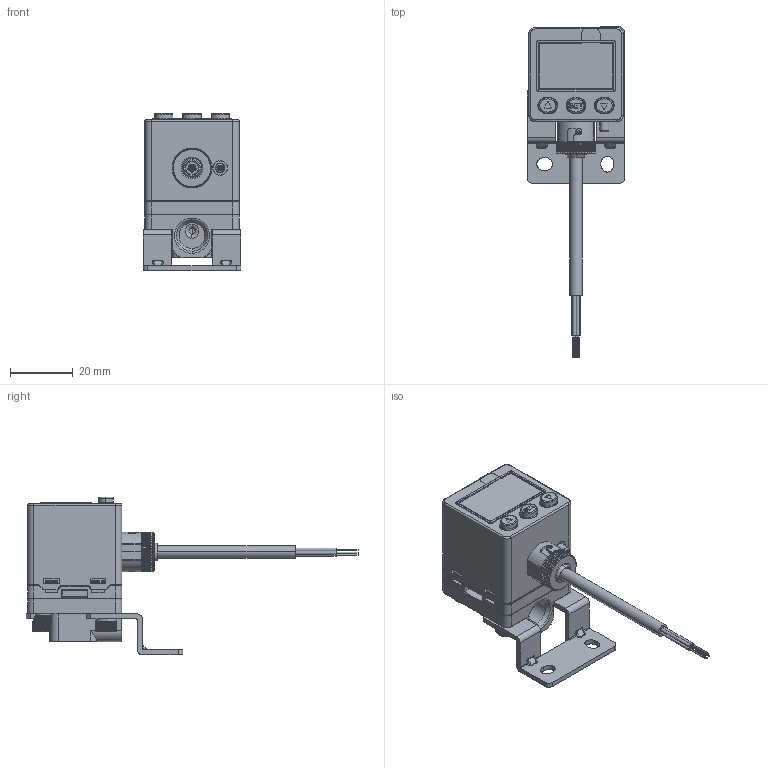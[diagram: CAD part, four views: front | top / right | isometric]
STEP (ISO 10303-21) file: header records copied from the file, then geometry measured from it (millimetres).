
FILE_DESCRIPTION((''),'2;1');
FILE_NAME('KP45-BT-1','2019-07-05T',('Stark'),(''),'CREO PARAMETRIC BY PTC INC, 2014500','CREO PARAMETRIC BY PTC INC, 2014500','');
FILE_SCHEMA(('CONFIG_CONTROL_DESIGN'));
Products named in the file (1): KP45-BT-1
Bounding box: 31.2 x 105.8 x 50.2 mm (x, y, z)
Volume: 36708.6 mm3; surface area: 11742.3 mm2
Topology: 1 solids, 1 shells, 1736 faces, 4480 edges, 2794 vertices
Faces by surface type: plane 789, cylinder 509, cone 290, bspline 82, torus 48, extrusion 14, sphere 4
Entity records: 64992 total; most frequent: CARTESIAN_POINT 25310, ORIENTED_EDGE 8956, DIRECTION 7315, EDGE_CURVE 4478, VERTEX_POINT 2794, AXIS2_PLACEMENT_3D 2726, VECTOR 1863, LINE 1849
